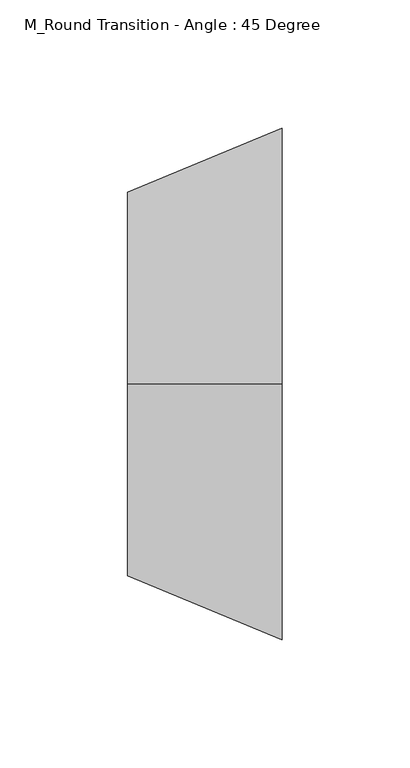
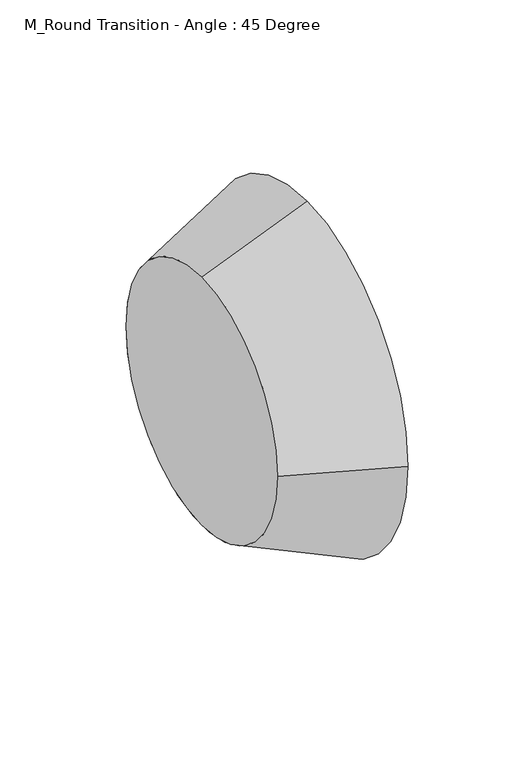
"""IFC4 building model written with IfcOpenShell, lengths in millimetres: duct fitting geometry, M_Round Transition - Angle : 45 Degree."""

from ifc_helpers import new_model, si_unit, frame, origin, place, context, project, spatial, polyline, circle_curve, source, transform, mapped, element, save
from ifc_brep_helpers import plane_surface, revolved_surface, advanced_brep


def m_round_transition_angle_45_degree_3fc7b733(model_context):
    return source(origin(), model_context, "Body", "AdvancedBrep", [
        advanced_brep(
        [(60.3553391, -100.0, 0.0), (60.3553391, 0.0, -100.0), (60.3553391, 100.0, 0.0), (60.3553391, 0.0, 100.0), (0.0, -75.0, 0.0), (0.0, 0.0, 75.0), (0.0, 75.0, 0.0), (0.0, 0.0, -75.0)],
        [
            (0, 1, circle_curve(frame((60.3553391, 0.0, 0.0), z_axis=(1.0, 0.0, 0.0), x_axis=(0.0, -1.0, 0.0)), 100.0)),
            (1, 2, circle_curve(frame((60.3553391, 0.0, 0.0), z_axis=(1.0, 0.0, 0.0), x_axis=(0.0, 0.0, -1.0)), 100.0)),
            (2, 3, circle_curve(frame((60.3553391, 0.0, 0.0), z_axis=(1.0, 0.0, 0.0), x_axis=(0.0, 1.0, 0.0)), 100.0)),
            (3, 0, circle_curve(frame((60.3553391, 0.0, 0.0), z_axis=(1.0, 0.0, 0.0), x_axis=(0.0, 0.0, 1.0)), 100.0)),
            (4, 5, circle_curve(frame((0.0, 0.0, 0.0), z_axis=(-1.0, 0.0, 0.0), x_axis=(0.0, 0.0, 1.0)), 75.0)),
            (5, 6, circle_curve(frame((0.0, 0.0, 0.0), z_axis=(-1.0, 0.0, 0.0), x_axis=(0.0, 1.0, 0.0)), 75.0)),
            (6, 7, circle_curve(frame((0.0, 0.0, 0.0), z_axis=(-1.0, 0.0, 0.0), x_axis=(0.0, 0.0, -1.0)), 75.0)),
            (7, 4, circle_curve(frame((0.0, 0.0, 0.0), z_axis=(-1.0, 0.0, 0.0), x_axis=(0.0, -1.0, 0.0)), 75.0)),
            (7, 1),
            (0, 4),
            (6, 2),
            (5, 3),
        ],
        [
            plane_surface(frame((60.3553391, 0.0, 0.0), z_axis=(1.0, 0.0, 0.0), x_axis=(0.0, 0.0, -1.0))),
            plane_surface(frame((0.0, 0.0, 0.0), z_axis=(-1.0, 0.0, 0.0), x_axis=(0.0, 0.0, -1.0))),
            revolved_surface(polyline([(0.0, 0.0, -74.99999998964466), (60.35533910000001, 0.0, -100.0)]), (-181.0660172, 0.0, 0.0), (1.0, 0.0, 0.0)),
            revolved_surface(polyline([(0.0, 74.99999998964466, 0.0), (60.35533910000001, 100.0, 0.0)]), (-181.0660172, 0.0, 0.0), (1.0, 0.0, 0.0)),
            revolved_surface(polyline([(0.0, 0.0, 74.99999998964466), (60.35533910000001, 0.0, 100.0)]), (-181.0660172, 0.0, 0.0), (1.0, 0.0, 0.0)),
            revolved_surface(polyline([(0.0, -74.99999998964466, 0.0), (60.35533910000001, -100.0, 0.0)]), (-181.0660172, 0.0, 0.0), (1.0, 0.0, 0.0)),
        ],
        [
            (0, [[1, 2, 3, 4]]),
            (1, [[5, 6, 7, 8]]),
            (2, [[-8, 9, -1, 10]]),
            (3, [[-7, 11, -2, -9]]),
            (4, [[-6, 12, -3, -11]]),
            (5, [[-5, -10, -4, -12]]),
        ],
    ),
        advanced_brep(
        [(0.0, -75.0, 0.0), (0.0, 0.0, 75.0), (0.0, 75.0, 0.0), (0.0, 0.0, -75.0), (60.3553391, -100.0, 0.0), (60.3553391, 0.0, -100.0), (60.3553391, 100.0, 0.0), (60.3553391, 0.0, 100.0)],
        [
            (0, 1, circle_curve(frame((0.0, 0.0, 0.0), z_axis=(-1.0, 0.0, 0.0), x_axis=(0.0, -1.0, 0.0)), 75.0)),
            (1, 2, circle_curve(frame((0.0, 0.0, 0.0), z_axis=(-1.0, 0.0, 0.0), x_axis=(0.0, 0.0, 1.0)), 75.0)),
            (2, 3, circle_curve(frame((0.0, 0.0, 0.0), z_axis=(-1.0, 0.0, 0.0), x_axis=(0.0, 1.0, 0.0)), 75.0)),
            (3, 0, circle_curve(frame((0.0, 0.0, 0.0), z_axis=(-1.0, 0.0, 0.0), x_axis=(0.0, 0.0, -1.0)), 75.0)),
            (4, 5, circle_curve(frame((60.3553391, 0.0, 0.0), z_axis=(1.0, 0.0, 0.0), x_axis=(0.0, 0.0, -1.0)), 100.0)),
            (5, 6, circle_curve(frame((60.3553391, 0.0, 0.0), z_axis=(1.0, 0.0, 0.0), x_axis=(0.0, 1.0, 0.0)), 100.0)),
            (6, 7, circle_curve(frame((60.3553391, 0.0, 0.0), z_axis=(1.0, 0.0, 0.0), x_axis=(0.0, 0.0, 1.0)), 100.0)),
            (7, 4, circle_curve(frame((60.3553391, 0.0, 0.0), z_axis=(1.0, 0.0, 0.0), x_axis=(0.0, -1.0, 0.0)), 100.0)),
            (7, 1),
            (0, 4),
            (6, 2),
            (5, 3),
        ],
        [
            plane_surface(frame((0.0, 0.0, 0.0), z_axis=(-1.0, 0.0, 0.0), x_axis=(0.0, 0.0, -1.0))),
            plane_surface(frame((60.3553391, 0.0, 0.0), z_axis=(1.0, 0.0, 0.0), x_axis=(0.0, 0.0, -1.0))),
            revolved_surface(polyline([(0.0, -74.99999998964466, 0.0), (60.35533910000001, -100.0, 0.0)]), (-181.0660172, 0.0, 0.0), (1.0, 0.0, 0.0)),
            revolved_surface(polyline([(0.0, 0.0, 74.99999998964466), (60.35533910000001, 0.0, 100.0)]), (-181.0660172, 0.0, 0.0), (1.0, 0.0, 0.0)),
            revolved_surface(polyline([(0.0, 74.99999998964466, 0.0), (60.35533910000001, 100.0, 0.0)]), (-181.0660172, 0.0, 0.0), (1.0, 0.0, 0.0)),
            revolved_surface(polyline([(0.0, 0.0, -74.99999998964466), (60.35533910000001, 0.0, -100.0)]), (-181.0660172, 0.0, 0.0), (1.0, 0.0, 0.0)),
        ],
        [
            (0, [[1, 2, 3, 4]]),
            (1, [[5, 6, 7, 8]]),
            (2, [[-8, 9, -1, 10]]),
            (3, [[-7, 11, -2, -9]]),
            (4, [[-6, 12, -3, -11]]),
            (5, [[-5, -10, -4, -12]]),
        ],
    ),
        advanced_brep(
        [(60.3553391, -100.0, 0.0), (60.3553391, 100.0, 0.0), (0.0, -75.0, 0.0), (0.0, 75.0, 0.0)],
        [
            (0, 1, circle_curve(frame((60.3553391, 0.0, 0.0), z_axis=(1.0, 0.0, 0.0), x_axis=(0.0, -1.0, 0.0)), 100.0)),
            (1, 0, circle_curve(frame((60.3553391, 0.0, 0.0), z_axis=(1.0, 0.0, 0.0), x_axis=(0.0, 1.0, 0.0)), 100.0)),
            (2, 3, circle_curve(frame((0.0, 0.0, 0.0), z_axis=(-1.0, 0.0, 0.0), x_axis=(0.0, 1.0, 0.0)), 75.0)),
            (3, 2, circle_curve(frame((0.0, 0.0, 0.0), z_axis=(-1.0, 0.0, 0.0), x_axis=(0.0, -1.0, 0.0)), 75.0)),
            (3, 1),
            (0, 2),
        ],
        [
            plane_surface(frame((60.3553391, 0.0, 0.0), z_axis=(1.0, 0.0, 0.0), x_axis=(0.0, 0.0, -1.0))),
            plane_surface(frame((0.0, 0.0, 0.0), z_axis=(-1.0, 0.0, 0.0), x_axis=(0.0, 0.0, -1.0))),
            revolved_surface(polyline([(0.0, 74.99999998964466, 0.0), (60.35533910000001, 100.0, 0.0)]), (-181.0660172, 0.0, 0.0), (1.0, 0.0, 0.0)),
            revolved_surface(polyline([(0.0, -74.99999998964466, 0.0), (60.35533910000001, -100.0, 0.0)]), (-181.0660172, 0.0, 0.0), (1.0, 0.0, 0.0)),
        ],
        [
            (0, [[1, 2]]),
            (1, [[3, 4]]),
            (2, [[-4, 5, -1, 6]]),
            (3, [[-3, -6, -2, -5]]),
        ],
    ),
    ])


if __name__ == "__main__":
    model = new_model("IFC4")
    model_context = context("Model", 3, world=origin())
    ifc_project = project(units=[si_unit("LENGTHUNIT", "METRE", prefix="MILLI")], contexts=[model_context])
    site = spatial("IfcSite", under=ifc_project)
    building = spatial("IfcBuilding", under=site)
    placement = place(None, origin())
    m_round_transition_angle_45_degree_shape = m_round_transition_angle_45_degree_3fc7b733(model_context)
    element("IfcDuctFitting", 1, ObjectType="M_Round Transition - Angle : 45 Degree", at=placement, inside=building, context=model_context, shape_type="MappedRepresentation", body=[
        mapped(m_round_transition_angle_45_degree_shape, transform((0.0, 0.0, 0.0), x_axis=(1.0, 0.0, 0.0), y_axis=(0.0, 1.0, 0.0), z_axis=(0.0, 0.0, 1.0))),
    ])
    save(model, "model.ifc")
